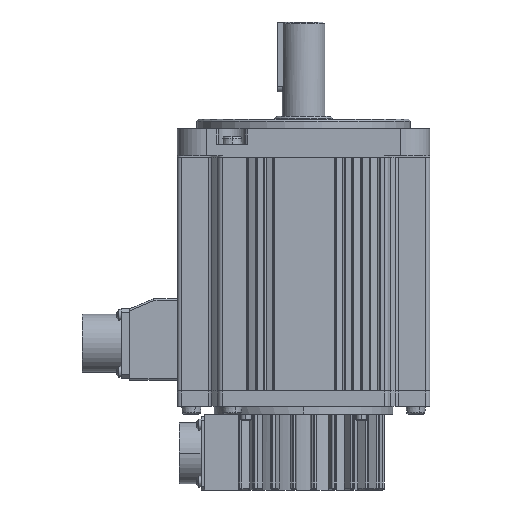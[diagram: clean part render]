
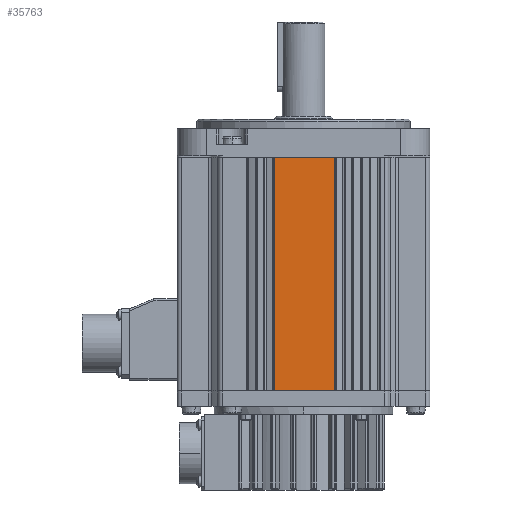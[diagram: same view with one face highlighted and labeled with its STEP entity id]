
A CAD part, left-side view. The second image highlights one B-rep face of the part: STEP entity #35763.
In plain terms, the highlighted planar face has unit normal (-1, 0, 0).
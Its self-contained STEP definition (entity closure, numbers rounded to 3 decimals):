
#2561 = ORIENTED_EDGE ( 'NONE', *, *, #24216, .F. ) ;
#2562 = ORIENTED_EDGE ( 'NONE', *, *, #25896, .T. ) ;
#2563 = ORIENTED_EDGE ( 'NONE', *, *, #25729, .T. ) ;
#2564 = ORIENTED_EDGE ( 'NONE', *, *, #25897, .T. ) ;
#3301 = LINE ( 'NONE', #4763, #3303 ) ;
#3303 = VECTOR ( 'NONE', #4762, 1000. ) ;
#3532 = LINE ( 'NONE', #6227, #3535 ) ;
#3535 = VECTOR ( 'NONE', #6199, 1000. ) ;
#3762 = LINE ( 'NONE', #6667, #3765 ) ;
#3764 = LINE ( 'NONE', #6669, #3767 ) ;
#3765 = VECTOR ( 'NONE', #6668, 1000. ) ;
#3767 = VECTOR ( 'NONE', #6670, 1000. ) ;
#4762 = DIRECTION ( 'NONE',  ( 0., 1., 0. ) ) ;
#4763 = CARTESIAN_POINT ( 'NONE',  ( -65., -65., -120. ) ) ;
#6199 = DIRECTION ( 'NONE',  ( 0., 1., 0. ) ) ;
#6227 = CARTESIAN_POINT ( 'NONE',  ( -65., -65., 0. ) ) ;
#6667 = CARTESIAN_POINT ( 'NONE',  ( -65., -15.9, 0. ) ) ;
#6668 = DIRECTION ( 'NONE',  ( 0., 0., 1. ) ) ;
#6669 = CARTESIAN_POINT ( 'NONE',  ( -65., 14.9, -120. ) ) ;
#6670 = DIRECTION ( 'NONE',  ( 0., 0., -1. ) ) ;
#17786 = AXIS2_PLACEMENT_3D ( 'NONE', #20774, #20780, #20781 ) ;
#18875 = FACE_OUTER_BOUND ( 'NONE', #29413, .T. ) ;
#19843 = CARTESIAN_POINT ( 'NONE',  ( -65., -15.9, -120. ) ) ;
#19844 = CARTESIAN_POINT ( 'NONE',  ( -65., 14.9, -120. ) ) ;
#19872 = CARTESIAN_POINT ( 'NONE',  ( -65., 14.9, 0. ) ) ;
#19913 = CARTESIAN_POINT ( 'NONE',  ( -65., -15.9, 0. ) ) ;
#20774 = CARTESIAN_POINT ( 'NONE',  ( -65., -65., -120. ) ) ;
#20778 = PLANE ( 'NONE',  #17786 ) ;
#20780 = DIRECTION ( 'NONE',  ( 1., 0., 0. ) ) ;
#20781 = DIRECTION ( 'NONE',  ( 0., 1., 0. ) ) ;
#24216 = EDGE_CURVE ( 'NONE', #34779, #34780, #3301, .T. ) ;
#25729 = EDGE_CURVE ( 'NONE', #34849, #34808, #3532, .T. ) ;
#25896 = EDGE_CURVE ( 'NONE', #34779, #34849, #3762, .T. ) ;
#25897 = EDGE_CURVE ( 'NONE', #34808, #34780, #3764, .T. ) ;
#29413 = EDGE_LOOP ( 'NONE', ( #2561, #2562, #2563, #2564 ) ) ;
#34779 = VERTEX_POINT ( 'NONE', #19843 ) ;
#34780 = VERTEX_POINT ( 'NONE', #19844 ) ;
#34808 = VERTEX_POINT ( 'NONE', #19872 ) ;
#34849 = VERTEX_POINT ( 'NONE', #19913 ) ;
#35763 = ADVANCED_FACE ( 'NONE', ( #18875 ), #20778, .F. ) ;
